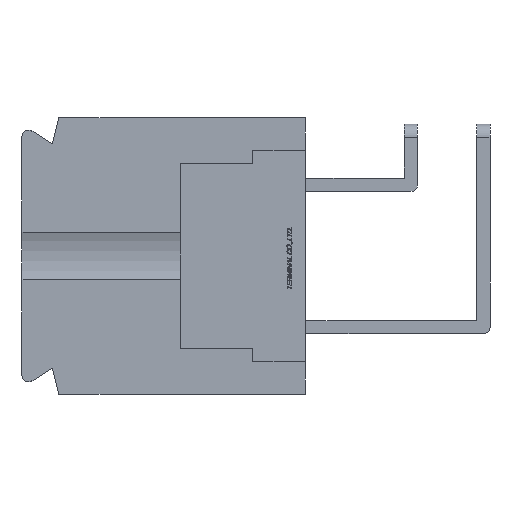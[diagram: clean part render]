
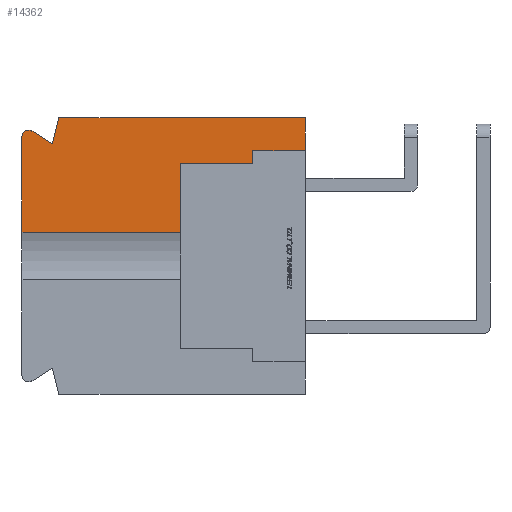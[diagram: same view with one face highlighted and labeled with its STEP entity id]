
A CAD part, left-side view. The second image highlights one B-rep face of the part: STEP entity #14362.
In plain terms, the highlighted planar face has unit normal (-1, 0, 0).
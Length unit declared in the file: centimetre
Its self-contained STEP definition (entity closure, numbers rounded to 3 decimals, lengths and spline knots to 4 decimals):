
#504=CIRCLE('',#24374,0.05);
#841=VECTOR('',#16012,1.);
#842=VECTOR('',#16013,1.);
#843=VECTOR('',#16014,1.);
#844=VECTOR('',#16015,1.);
#845=VECTOR('',#16016,1.);
#846=VECTOR('',#16017,1.);
#847=VECTOR('',#16018,1.);
#848=VECTOR('',#16019,1.);
#849=VECTOR('',#16022,1.);
#850=VECTOR('',#16023,1.);
#2576=LINE('',#19101,#841);
#2577=LINE('',#19104,#842);
#2578=LINE('',#19106,#843);
#2579=LINE('',#19108,#844);
#2580=LINE('',#19110,#845);
#2581=LINE('',#19112,#846);
#2582=LINE('',#19114,#847);
#2583=LINE('',#19116,#848);
#2584=LINE('',#19120,#849);
#2585=LINE('',#19122,#850);
#4324=VERTEX_POINT('',#19102);
#4325=VERTEX_POINT('',#19103);
#4326=VERTEX_POINT('',#19105);
#4327=VERTEX_POINT('',#19107);
#4328=VERTEX_POINT('',#19109);
#4329=VERTEX_POINT('',#19111);
#4330=VERTEX_POINT('',#19113);
#4331=VERTEX_POINT('',#19115);
#4332=VERTEX_POINT('',#19117);
#4333=VERTEX_POINT('',#19119);
#4334=VERTEX_POINT('',#19121);
#5911=EDGE_CURVE('',#4324,#4325,#2576,.T.);
#5912=EDGE_CURVE('',#4326,#4324,#2577,.T.);
#5913=EDGE_CURVE('',#4327,#4326,#2578,.T.);
#5914=EDGE_CURVE('',#4328,#4327,#2579,.T.);
#5915=EDGE_CURVE('',#4329,#4328,#2580,.T.);
#5916=EDGE_CURVE('',#4330,#4329,#2581,.T.);
#5917=EDGE_CURVE('',#4331,#4330,#2582,.T.);
#5918=EDGE_CURVE('',#4332,#4331,#2583,.T.);
#5919=EDGE_CURVE('',#4333,#4332,#504,.T.);
#5920=EDGE_CURVE('',#4334,#4333,#2584,.T.);
#5921=EDGE_CURVE('',#4334,#4325,#2585,.T.);
#8247=ORIENTED_EDGE('',*,*,#5911,.F.);
#8248=ORIENTED_EDGE('',*,*,#5912,.F.);
#8249=ORIENTED_EDGE('',*,*,#5913,.F.);
#8250=ORIENTED_EDGE('',*,*,#5914,.F.);
#8251=ORIENTED_EDGE('',*,*,#5915,.F.);
#8252=ORIENTED_EDGE('',*,*,#5916,.F.);
#8253=ORIENTED_EDGE('',*,*,#5917,.F.);
#8254=ORIENTED_EDGE('',*,*,#5918,.F.);
#8255=ORIENTED_EDGE('',*,*,#5919,.F.);
#8256=ORIENTED_EDGE('',*,*,#5920,.F.);
#8257=ORIENTED_EDGE('',*,*,#5921,.T.);
#12536=EDGE_LOOP('',(#8247,#8248,#8249,#8250,#8251,#8252,#8253,#8254,#8255,
#8256,#8257));
#13454=FACE_BOUND('',#12536,.T.);
#14362=ADVANCED_FACE('',(#13454),#15187,.F.);
#15187=PLANE('',#24373);
#16011=DIRECTION('',(1.,0.,0.));
#16012=DIRECTION('',(0.,0.,-1.));
#16013=DIRECTION('',(0.,1.,0.));
#16014=DIRECTION('',(0.,0.,-1.));
#16015=DIRECTION('',(0.,1.,0.));
#16016=DIRECTION('',(0.,0.,-1.));
#16017=DIRECTION('',(0.,-1.,0.));
#16018=DIRECTION('',(0.,-0.243,0.97));
#16019=DIRECTION('',(0.,-0.844,-0.536));
#16020=DIRECTION('',(1.,0.,0.));
#16021=DIRECTION('',(0.,0.,-0.05));
#16022=DIRECTION('',(0.,0.,1.));
#16023=DIRECTION('',(0.,-1.,0.));
#19100=CARTESIAN_POINT('',(-1.1,1.082,0.));
#19101=CARTESIAN_POINT('',(-1.1,0.95,-0.7));
#19102=CARTESIAN_POINT('',(-1.1,0.95,0.7));
#19103=CARTESIAN_POINT('',(-1.1,0.95,0.1809));
#19104=CARTESIAN_POINT('',(-1.1,0.95,0.7));
#19105=CARTESIAN_POINT('',(-1.1,0.4,0.7));
#19106=CARTESIAN_POINT('',(-1.1,0.4,0.7));
#19107=CARTESIAN_POINT('',(-1.1,0.4,0.8));
#19108=CARTESIAN_POINT('',(-1.1,0.4,0.8));
#19109=CARTESIAN_POINT('',(-1.1,0.,0.8));
#19110=CARTESIAN_POINT('',(-1.1,0.,1.05));
#19111=CARTESIAN_POINT('',(-1.1,0.,1.05));
#19112=CARTESIAN_POINT('',(-1.1,1.87,1.05));
#19113=CARTESIAN_POINT('',(-1.1,1.87,1.05));
#19114=CARTESIAN_POINT('',(-1.1,1.92,0.85));
#19115=CARTESIAN_POINT('',(-1.1,1.92,0.85));
#19116=CARTESIAN_POINT('',(-1.1,2.0742,0.9478));
#19117=CARTESIAN_POINT('',(-1.1,2.0742,0.9478));
#19118=CARTESIAN_POINT('',(-1.1,2.1,0.905));
#19119=CARTESIAN_POINT('',(-1.1,2.15,0.905));
#19120=CARTESIAN_POINT('',(-1.1,2.15,-0.905));
#19121=CARTESIAN_POINT('',(-1.1,2.15,0.1809));
#19122=CARTESIAN_POINT('',(-1.1,1.55,0.1809));
#24373=AXIS2_PLACEMENT_3D('',#19100,#16011,$);
#24374=AXIS2_PLACEMENT_3D('',#19118,#16020,#16021);
